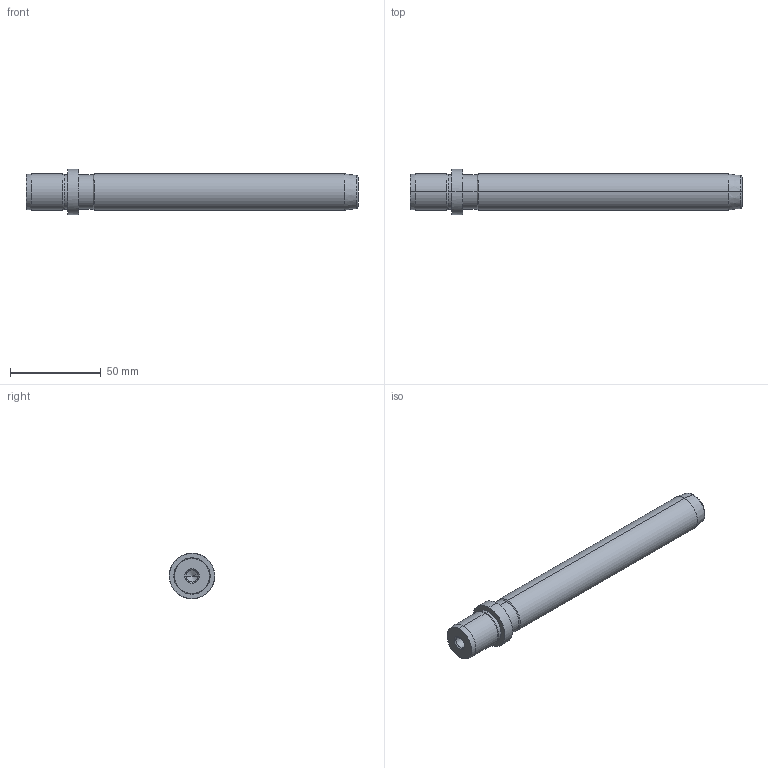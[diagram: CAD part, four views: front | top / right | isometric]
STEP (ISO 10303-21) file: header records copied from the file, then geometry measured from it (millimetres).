
FILE_DESCRIPTION(('CATIA V5 STEP Exchange'),'2;1');
FILE_NAME('C:\Users\Utente\Desktop\IO LAVORO\3D X SITO CF\X SITO\718\718-20x160.stp','2021-01-02T15:24:19+00:00',('none'),('none'),'CATIA Version 5 Release 20 GA (IN-10)','CATIA V5 STEP AP203','none');
FILE_SCHEMA(('CONFIG_CONTROL_DESIGN'));
Length unit declared in the file: millimetre
Products named in the file (1): 718-20x160
Bounding box: 183 x 25 x 25 mm (x, y, z)
Volume: 56216.5 mm3; surface area: 13491.6 mm2
Topology: 1 solids, 1 shells, 36 faces, 100 edges, 66 vertices
Faces by surface type: cone 16, cylinder 14, plane 4, torus 2
Entity records: 1291 total; most frequent: CARTESIAN_POINT 362, ORIENTED_EDGE 192, DIRECTION 157, EDGE_CURVE 96, AXIS2_PLACEMENT_3D 92, VERTEX_POINT 66, CIRCLE 55, EDGE_LOOP 40
